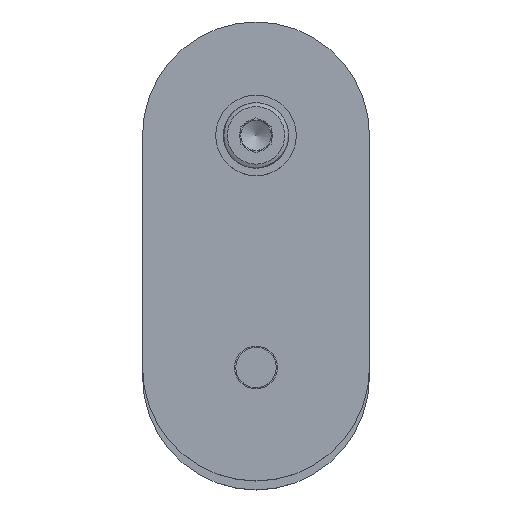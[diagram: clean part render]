
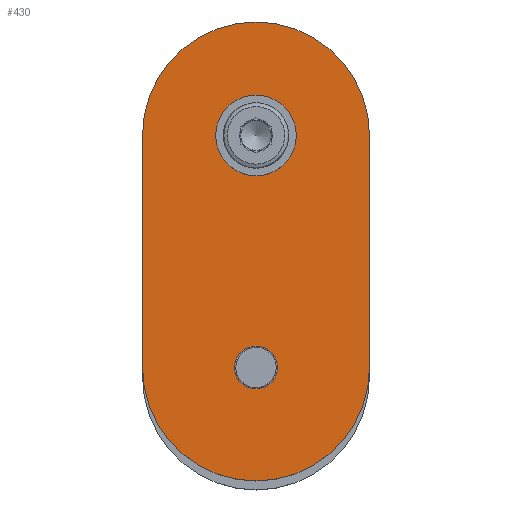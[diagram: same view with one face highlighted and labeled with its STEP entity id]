
A CAD part, top view. The second image highlights one B-rep face of the part: STEP entity #430.
In plain terms, the highlighted planar face has unit normal (0, 0, 1).
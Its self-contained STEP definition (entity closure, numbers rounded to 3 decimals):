
#7 = EDGE_CURVE ( 'NONE', #1906, #1906, #1901, .T. ) ;
#48 = EDGE_CURVE ( 'NONE', #1591, #1724, #51, .T. ) ;
#51 = CIRCLE ( 'NONE', #1599, 22.5 ) ;
#146 = FACE_BOUND ( 'NONE', #1501, .T. ) ;
#275 = DIRECTION ( 'NONE',  ( 1., 0., 0. ) ) ;
#316 = CARTESIAN_POINT ( 'NONE',  ( 22.5, -46., 8. ) ) ;
#322 = DIRECTION ( 'NONE',  ( 0., 0., 1. ) ) ;
#359 = CARTESIAN_POINT ( 'NONE',  ( 22.5, 0., 8. ) ) ;
#368 = CARTESIAN_POINT ( 'NONE',  ( 0., 0., 8. ) ) ;
#403 = VECTOR ( 'NONE', #1220, 1000. ) ;
#430 = ADVANCED_FACE ( 'NONE', ( #146, #632, #1791 ), #1138, .T. ) ;
#507 = CARTESIAN_POINT ( 'NONE',  ( 0., -46., 8. ) ) ;
#558 = CARTESIAN_POINT ( 'NONE',  ( 45., -46., 8. ) ) ;
#562 = CARTESIAN_POINT ( 'NONE',  ( 45., 0., 8. ) ) ;
#569 = ORIENTED_EDGE ( 'NONE', *, *, #1319, .T. ) ;
#609 = VERTEX_POINT ( 'NONE', #368 ) ;
#632 = FACE_OUTER_BOUND ( 'NONE', #2114, .T. ) ;
#675 = CIRCLE ( 'NONE', #1403, 4.25 ) ;
#685 = ORIENTED_EDGE ( 'NONE', *, *, #774, .T. ) ;
#690 = DIRECTION ( 'NONE',  ( 1., 0., 0. ) ) ;
#707 = VERTEX_POINT ( 'NONE', #2022 ) ;
#764 = CARTESIAN_POINT ( 'NONE',  ( 26.75, 0., 8. ) ) ;
#774 = EDGE_CURVE ( 'NONE', #609, #1591, #1274, .T. ) ;
#912 = EDGE_CURVE ( 'NONE', #1724, #707, #1680, .T. ) ;
#980 = ORIENTED_EDGE ( 'NONE', *, *, #7, .F. ) ;
#981 = DIRECTION ( 'NONE',  ( 1., 0., 0. ) ) ;
#984 = AXIS2_PLACEMENT_3D ( 'NONE', #2060, #1065, #275 ) ;
#1016 = DIRECTION ( 'NONE',  ( 0., 0., 1. ) ) ;
#1061 = CIRCLE ( 'NONE', #1271, 22.5 ) ;
#1065 = DIRECTION ( 'NONE',  ( 0., 0., 1. ) ) ;
#1076 = DIRECTION ( 'NONE',  ( 0., 0., 1. ) ) ;
#1113 = VERTEX_POINT ( 'NONE', #1456 ) ;
#1138 = PLANE ( 'NONE',  #1263 ) ;
#1185 = CARTESIAN_POINT ( 'NONE',  ( 22.5, -46., 8. ) ) ;
#1220 = DIRECTION ( 'NONE',  ( 0., -1., 0. ) ) ;
#1224 = DIRECTION ( 'NONE',  ( 0., 1., 0. ) ) ;
#1263 = AXIS2_PLACEMENT_3D ( 'NONE', #316, #322, #981 ) ;
#1271 = AXIS2_PLACEMENT_3D ( 'NONE', #359, #1016, #1355 ) ;
#1274 = LINE ( 'NONE', #2062, #403 ) ;
#1319 = EDGE_CURVE ( 'NONE', #707, #609, #1061, .T. ) ;
#1355 = DIRECTION ( 'NONE',  ( -1., 0., 0. ) ) ;
#1389 = DIRECTION ( 'NONE',  ( 1., 0., 0. ) ) ;
#1397 = CARTESIAN_POINT ( 'NONE',  ( 22.5, -46., 8. ) ) ;
#1403 = AXIS2_PLACEMENT_3D ( 'NONE', #1185, #1678, #690 ) ;
#1437 = EDGE_CURVE ( 'NONE', #1113, #1113, #675, .T. ) ;
#1456 = CARTESIAN_POINT ( 'NONE',  ( 26.75, -46., 8. ) ) ;
#1463 = ORIENTED_EDGE ( 'NONE', *, *, #912, .T. ) ;
#1499 = VECTOR ( 'NONE', #1224, 1000. ) ;
#1501 = EDGE_LOOP ( 'NONE', ( #980 ) ) ;
#1591 = VERTEX_POINT ( 'NONE', #507 ) ;
#1599 = AXIS2_PLACEMENT_3D ( 'NONE', #1397, #1076, #1389 ) ;
#1617 = ORIENTED_EDGE ( 'NONE', *, *, #48, .T. ) ;
#1678 = DIRECTION ( 'NONE',  ( 0., 0., 1. ) ) ;
#1680 = LINE ( 'NONE', #562, #1499 ) ;
#1724 = VERTEX_POINT ( 'NONE', #558 ) ;
#1791 = FACE_BOUND ( 'NONE', #1812, .T. ) ;
#1812 = EDGE_LOOP ( 'NONE', ( #1827 ) ) ;
#1827 = ORIENTED_EDGE ( 'NONE', *, *, #1437, .F. ) ;
#1901 = CIRCLE ( 'NONE', #984, 4.25 ) ;
#1906 = VERTEX_POINT ( 'NONE', #764 ) ;
#2022 = CARTESIAN_POINT ( 'NONE',  ( 45., 0., 8. ) ) ;
#2060 = CARTESIAN_POINT ( 'NONE',  ( 22.5, 0., 8. ) ) ;
#2062 = CARTESIAN_POINT ( 'NONE',  ( 0., 0., 8. ) ) ;
#2114 = EDGE_LOOP ( 'NONE', ( #1617, #1463, #569, #685 ) ) ;
